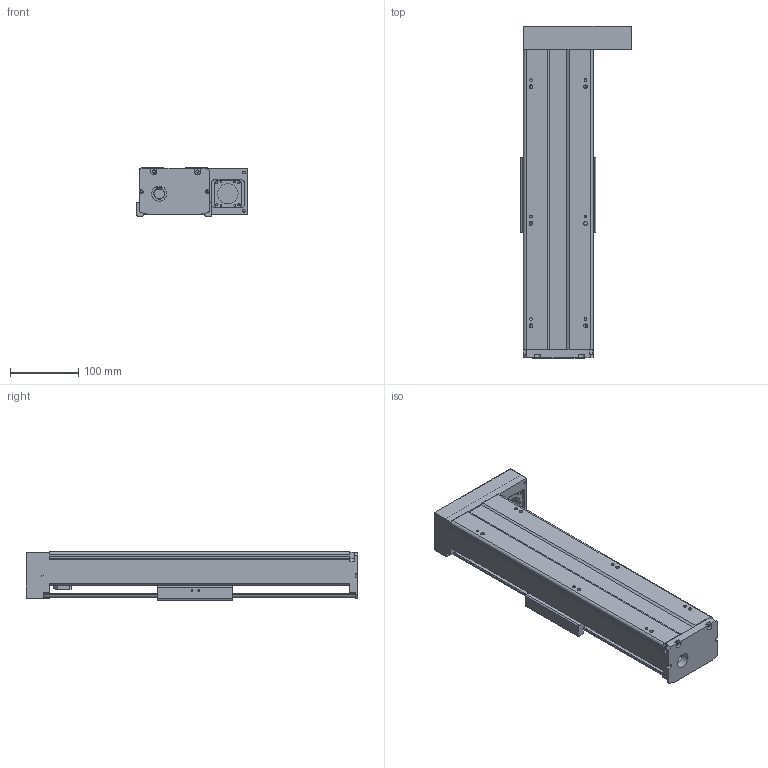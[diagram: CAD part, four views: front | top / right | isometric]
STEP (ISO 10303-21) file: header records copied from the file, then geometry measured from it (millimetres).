
FILE_DESCRIPTION(/* description */ (''),/* implementation_level */ '2;1');
FILE_NAME(/* name */ 'TKA100-FR-250-1_asm1.stp',/* time_stamp */ '2016-05-17T15:28:39+08:00',/* author */ (''),/* organization */ (''),/* preprocessor_version */ 'ST-DEVELOPER v15',/* originating_system */ 'SIEMENS PLM Software NX 8.5',/* authorisation */ '');
FILE_SCHEMA (('AUTOMOTIVE_DESIGN { 1 0 10303 214 3 1 1 1 }'));
Length unit declared in the file: millimetre
Products named in the file (3): 200-2; 200-1; TKA100-FR-250-1_asm1
Assembly tree (2 placements, depth 2):
  TKA100-FR-250-1_asm1
    200-1
    200-2
Bounding box: 162 x 486 x 71 mm (x, y, z)
Volume: 1229900.3 mm3; surface area: 422011.4 mm2
Topology: 2 solids, 16 shells, 778 faces, 2012 edges, 1311 vertices
Faces by surface type: plane 318, cylinder 289, cone 117, torus 28, bspline 26
Full cylindrical faces by diameter (mm): 2.5 x6, 2.6 x8, 3.3 x11, 3.4 x4, 3.8 x8, 4.2 x15, 4.3 x4, 4.5 x6, 5 x2, 5.5 x14, 6.6 x4, 8 x4, 9 x6, 10 x7, 11 x4, 12 x6, 15.3 x1, 16 x1, 22 x1, 24 x1, 28 x2, 30 x1, 33 x1
Entity records: 28494 total; most frequent: CARTESIAN_POINT 10466, DIRECTION 3695, ORIENTED_EDGE 3520, EDGE_CURVE 1760, AXIS2_PLACEMENT_3D 1451, VERTEX_POINT 1238, EDGE_LOOP 1053, LINE 793
